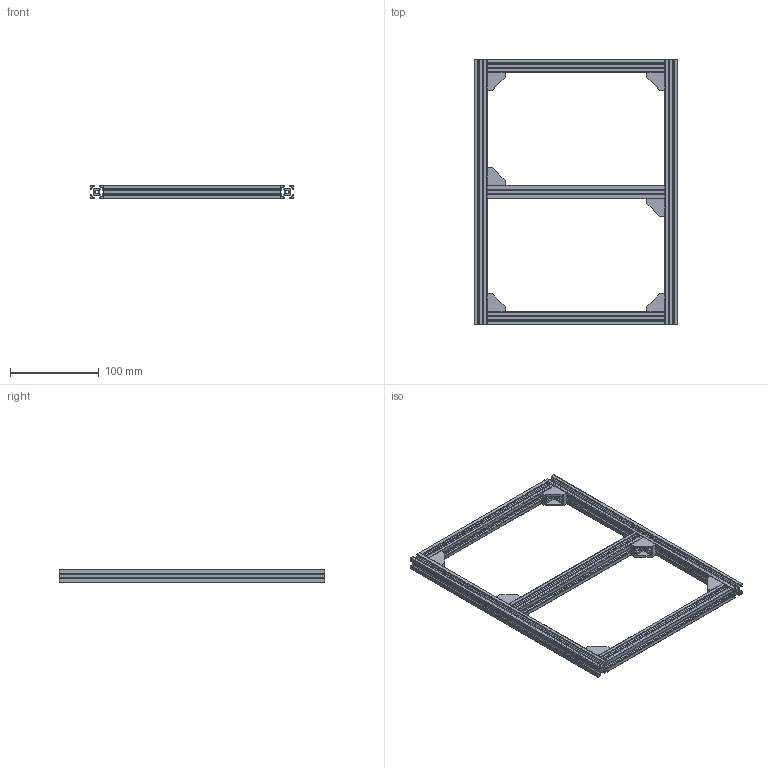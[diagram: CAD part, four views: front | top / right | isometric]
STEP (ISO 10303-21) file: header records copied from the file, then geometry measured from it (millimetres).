
FILE_DESCRIPTION(/* description */ (''),/* implementation_level */ '2;1');
FILE_NAME(/* name */ 'frame_tslo_t1515.stp',/* time_stamp */ '2025-08-14T13:39:16+02:00',/* author */ ('R5800u'),/* organization */ (''),/* preprocessor_version */ 'ST-DEVELOPER v20',/* originating_system */ 'Autodesk Inventor 2025',/* authorisation */ '');
FILE_SCHEMA (('AUTOMOTIVE_DESIGN { 1 0 10303 214 3 1 1 }'));
Length unit declared in the file: millimetre
Products named in the file (6): frame_tslot1515; tslot-1515-200mm; tslot-1515-300mm; tslot-1515-300mm_MIR; tslot-1515-200mm_MIR; angolare_1515
Assembly tree (11 placements, depth 2):
  frame_tslot1515
    tslot-1515-200mm
    tslot-1515-300mm
    tslot-1515-200mm_MIR  x2
    tslot-1515-300mm_MIR
    angolare_1515  x6
Bounding box: 230 x 300 x 15 mm (x, y, z)
Volume: 125450.4 mm3; surface area: 155939.8 mm2
Topology: 11 solids, 11 shells, 803 faces, 2223 edges, 1442 vertices
Faces by surface type: plane 518, cylinder 285
Full cylindrical faces by diameter (mm): 4.2 x5
Entity records: 14202 total; most frequent: DIRECTION 2474, CARTESIAN_POINT 2459, ORIENTED_EDGE 2432, EDGE_CURVE 1216, LINE 836, VECTOR 836, AXIS2_PLACEMENT_3D 819, VERTEX_POINT 804
